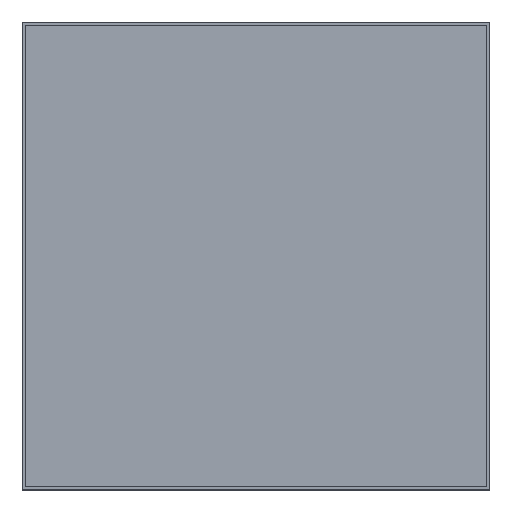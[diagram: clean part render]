
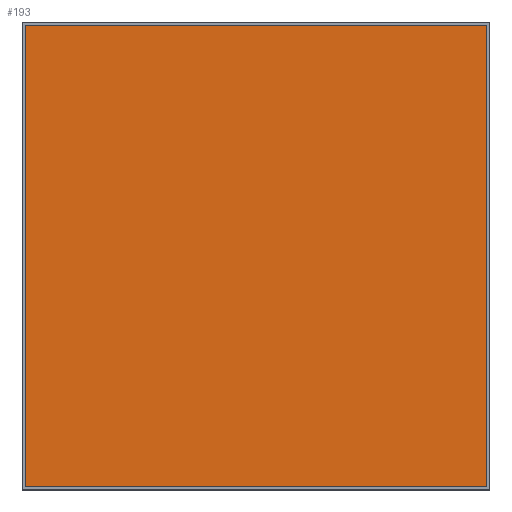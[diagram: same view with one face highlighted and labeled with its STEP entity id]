
A CAD part, top view. The second image highlights one B-rep face of the part: STEP entity #193.
In plain terms, the highlighted planar face has unit normal (0, 0, 1).
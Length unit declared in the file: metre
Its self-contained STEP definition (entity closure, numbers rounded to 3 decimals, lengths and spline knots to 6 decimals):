
#56=ORIENTED_EDGE('',*,*,#73,.F.);
#57=ORIENTED_EDGE('',*,*,#82,.F.);
#58=ORIENTED_EDGE('',*,*,#79,.T.);
#59=ORIENTED_EDGE('',*,*,#76,.T.);
#73=EDGE_CURVE('',#93,#94,#113,.T.);
#76=EDGE_CURVE('',#96,#94,#116,.T.);
#79=EDGE_CURVE('',#98,#96,#119,.T.);
#82=EDGE_CURVE('',#98,#93,#122,.T.);
#93=VERTEX_POINT('',#295);
#94=VERTEX_POINT('',#297);
#96=VERTEX_POINT('',#303);
#98=VERTEX_POINT('',#309);
#113=LINE('',#296,#137);
#116=LINE('',#302,#140);
#119=LINE('',#308,#143);
#122=LINE('',#314,#146);
#137=VECTOR('',#245,1.);
#140=VECTOR('',#250,1.);
#143=VECTOR('',#255,1.);
#146=VECTOR('',#260,1.);
#159=EDGE_LOOP('',(#56,#57,#58,#59));
#171=FACE_BOUND('',#159,.T.);
#182=PLANE('',#217);
#193=ADVANCED_FACE('',(#171),#182,.T.);
#217=AXIS2_PLACEMENT_3D('',#317,#264,#265);
#245=DIRECTION('',(1.,0.,0.));
#250=DIRECTION('',(0.,1.,0.));
#255=DIRECTION('',(1.,0.,0.));
#260=DIRECTION('',(0.,1.,0.));
#264=DIRECTION('',(0.,0.,1.));
#265=DIRECTION('',(1.,0.,0.));
#295=CARTESIAN_POINT('',(0.078909,0.0365,0.0005));
#296=CARTESIAN_POINT('',(0.058455,0.0365,0.0005));
#297=CARTESIAN_POINT('',(0.151909,0.0365,0.0005));
#302=CARTESIAN_POINT('',(0.151909,0.,0.0005));
#303=CARTESIAN_POINT('',(0.151909,-0.0365,0.0005));
#308=CARTESIAN_POINT('',(0.058455,-0.0365,0.0005));
#309=CARTESIAN_POINT('',(0.078909,-0.0365,0.0005));
#314=CARTESIAN_POINT('',(0.078909,0.,0.0005));
#317=CARTESIAN_POINT('',(0.058455,0.,0.0005));
